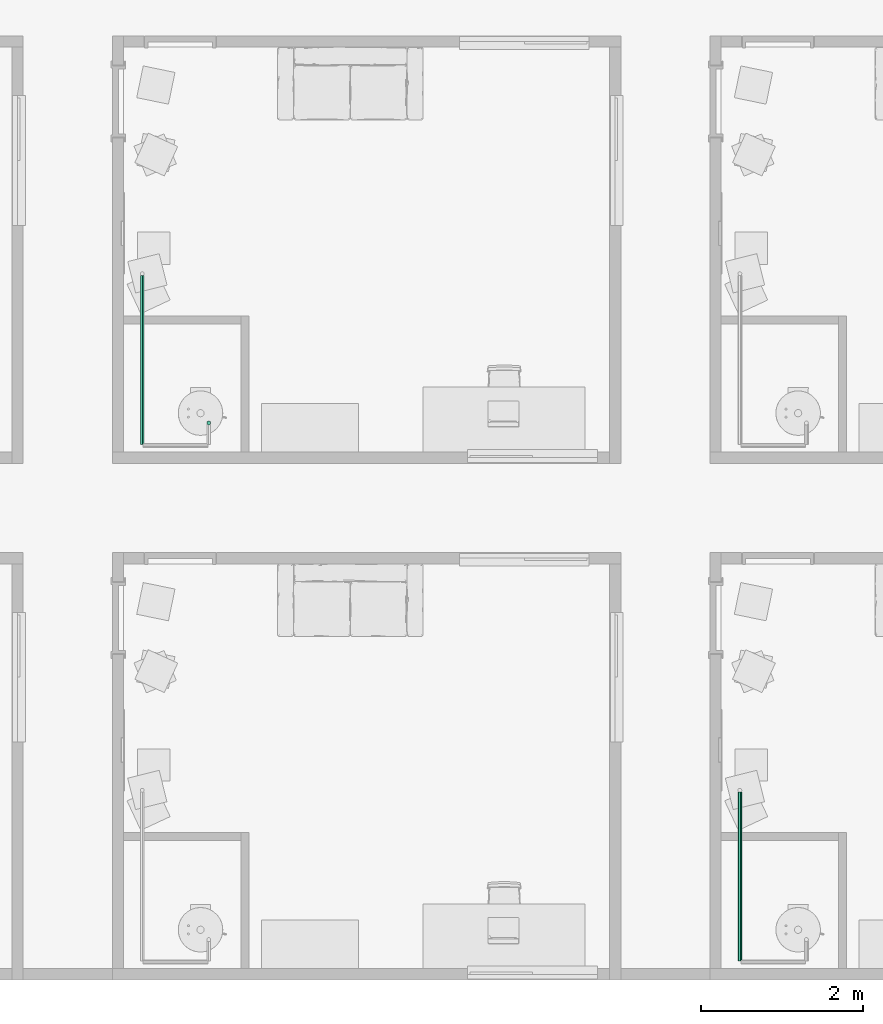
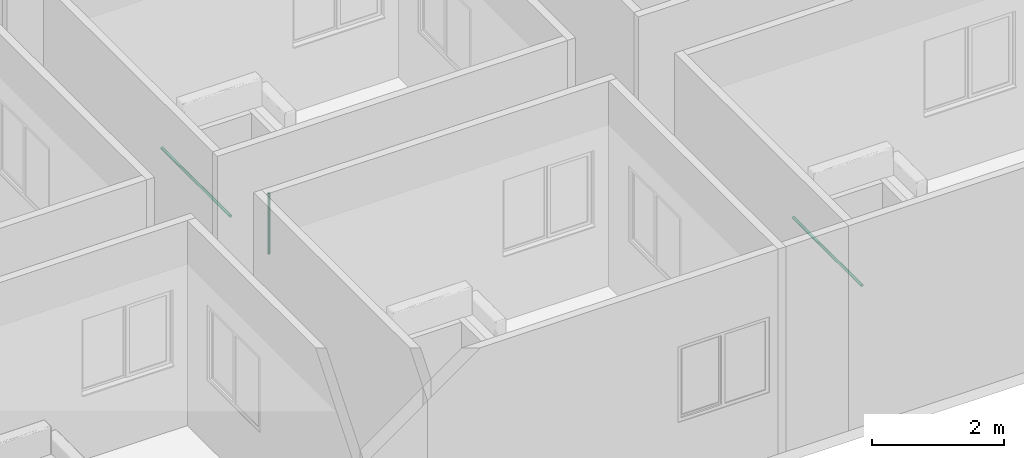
# One storey, part 33 of 71: 3 pipe segments.
"""IFC4 building model written with IfcOpenShell, lengths in centimetres."""

from ifc_helpers import new_model, entity, si_unit, converted_unit, derived_unit, direction, frame, origin, place, context, subcontext, project, spatial, arc, indexed_curve, outline, extrude, type_object, element, save


model = new_model("IFC4")

# Units and contexts
model_context = context("Model", 3, precision=0.001, world=origin(), true_north=direction((6.123233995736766e-17, 1.0)))
body_context = subcontext(model_context, "Body", "Model", "MODEL_VIEW")
ifc_project = project(units=[si_unit("LENGTHUNIT", "METRE", prefix="CENTI"), si_unit("AREAUNIT", "SQUARE_METRE"), si_unit("VOLUMEUNIT", "CUBIC_METRE"), derived_unit("THERMALTRANSMITTANCEUNIT", [(si_unit("MASSUNIT", "GRAM", prefix="KILO"), 1), (si_unit("THERMODYNAMICTEMPERATUREUNIT", "KELVIN"), -1), (si_unit("TIMEUNIT", "SECOND"), -3)]), converted_unit("PLANEANGLEUNIT", "DEGREE", entity("IfcPlaneAngleMeasure", 0.017453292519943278), si_unit("PLANEANGLEUNIT", "RADIAN"), dimensions=[0, 0, 0, 0, 0, 0, 0]), derived_unit("MASSDENSITYUNIT", [(si_unit("MASSUNIT", "GRAM", prefix="KILO"), 1), (si_unit("LENGTHUNIT", "METRE"), -3)]), derived_unit("VAPORPERMEABILITYUNIT", [(si_unit("LENGTHUNIT", "METRE"), -1), (si_unit("TIMEUNIT", "SECOND"), 1)]), derived_unit("USERDEFINED", [(si_unit("MASSUNIT", "GRAM", prefix="KILO"), 1), (si_unit("TIMEUNIT", "SECOND"), -3), (si_unit("LENGTHUNIT", "METRE"), 3), (si_unit("ELECTRICCURRENTUNIT", "AMPERE"), -2)]), derived_unit("SPECIFICHEATCAPACITYUNIT", [(si_unit("THERMODYNAMICTEMPERATUREUNIT", "KELVIN"), -1), (si_unit("LENGTHUNIT", "METRE"), 2), (si_unit("TIMEUNIT", "SECOND"), -2)]), derived_unit("THERMALCONDUCTANCEUNIT", [(si_unit("MASSUNIT", "GRAM", prefix="KILO"), 1), (si_unit("THERMODYNAMICTEMPERATUREUNIT", "KELVIN"), -1), (si_unit("TIMEUNIT", "SECOND"), -3), (si_unit("LENGTHUNIT", "METRE"), 1)]), si_unit("PRESSUREUNIT", "PASCAL"), derived_unit("MODULUSOFELASTICITYUNIT", [(si_unit("MASSUNIT", "GRAM", prefix="KILO"), 1), (si_unit("LENGTHUNIT", "METRE"), -1), (si_unit("TIMEUNIT", "SECOND"), -2)]), derived_unit("THERMALEXPANSIONCOEFFICIENTUNIT", [(si_unit("THERMODYNAMICTEMPERATUREUNIT", "KELVIN"), -1)])], contexts=[model_context])

# Site, building, storey
site_placement = place(None, origin())
site = spatial("IfcSite", under=ifc_project, at=site_placement, Name="Default", CompositionType="ELEMENT")
building_placement = place(site_placement, origin())
building = spatial("IfcBuilding", under=site, at=building_placement, Name="IDS Escape Game Building", CompositionType="ELEMENT")
storey_placement = place(building_placement, frame((0.0, 0.0, 400.0)))
storey = spatial("IfcBuildingStorey", under=building, at=storey_placement, Name="01_First Floor", CompositionType="ELEMENT", Elevation=399.99999999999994)

# Pipe segments
pipe_segment_type = type_object("IfcPipeSegmentType", Name="Pipe Types:Piping Aluminum", PredefinedType="NOTDEFINED")
pipe_segment_1_placement = place(storey_placement, origin())
element("IfcPipeSegment", 1, at=pipe_segment_1_placement, inside=storey, type_object=pipe_segment_type, Name="Pipe Types:Piping Aluminum", ObjectType="Pipe Types:Piping Aluminum", PredefinedType="NOTDEFINED", context=body_context, shape_type="SweptSolid", body=[
    extrude(outline(indexed_curve([(2.4130000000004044, 0.0), (1.7062486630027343, 1.7062486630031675), (0.0, 2.412999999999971), (-1.7062486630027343, 1.7062486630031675), (-2.4130000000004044, 0.0), (-1.7062486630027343, -1.7062486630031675), (0.0, -2.412999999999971), (1.7062486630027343, -1.7062486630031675)], segments=[arc(1, 2, 3), arc(3, 4, 5), arc(5, 6, 7), arc(7, 8, 1)], self_intersect=False)), frame((4458.046716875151, 22.364827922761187, 242.0), z_axis=(0.0, 1.0, 0.0), x_axis=(1.0, 0.0, 0.0)), (0.0, 0.0, 1.0), 208.80000000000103),
])
pipe_segment_2_placement = place(storey_placement, origin())
element("IfcPipeSegment", 2, at=pipe_segment_2_placement, inside=storey, type_object=pipe_segment_type, Name="Pipe Types:Piping Aluminum", ObjectType="Pipe Types:Piping Aluminum", PredefinedType="NOTDEFINED", context=body_context, shape_type="SweptSolid", body=[
    extrude(outline(indexed_curve([(2.412999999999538, 0.0), (1.7062486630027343, 1.7062486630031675), (-4.331468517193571e-13, 2.412999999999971), (-1.7062486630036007, 1.7062486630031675), (-2.4130000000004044, 0.0), (-1.7062486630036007, -1.7062486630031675), (-4.331468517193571e-13, -2.412999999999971), (1.7062486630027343, -1.7062486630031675)], segments=[arc(1, 2, 3), arc(3, 4, 5), arc(5, 6, 7), arc(7, 8, 1)], self_intersect=False)), frame((3802.1500000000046, 686.9000000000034, 128.0), z_axis=(0.0, 0.0, 1.0), x_axis=(-1.0, 0.0, 0.0)), (0.0, 0.0, 1.0), 112.90000000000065),
])
pipe_segment_3_placement = place(storey_placement, origin())
element("IfcPipeSegment", 3, at=pipe_segment_3_placement, inside=storey, type_object=pipe_segment_type, Name="Pipe Types:Piping Aluminum", ObjectType="Pipe Types:Piping Aluminum", PredefinedType="NOTDEFINED", context=body_context, shape_type="SweptSolid", body=[
    extrude(outline(indexed_curve([(2.412999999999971, 0.0), (1.7062486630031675, 1.7062486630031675), (0.0, 2.412999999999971), (-1.7062486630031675, 1.7062486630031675), (-2.412999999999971, 0.0), (-1.7062486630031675, -1.7062486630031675), (0.0, -2.412999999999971), (1.7062486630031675, -1.7062486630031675)], segments=[arc(1, 2, 3), arc(3, 4, 5), arc(5, 6, 7), arc(7, 8, 1)], self_intersect=False)), frame((3720.0467168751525, 660.3648279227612, 242.0), z_axis=(0.0, 1.0, 0.0), x_axis=(1.0, 0.0, 0.0)), (0.0, 0.0, 1.0), 208.80000000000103),
])

save(model, "model.ifc")
